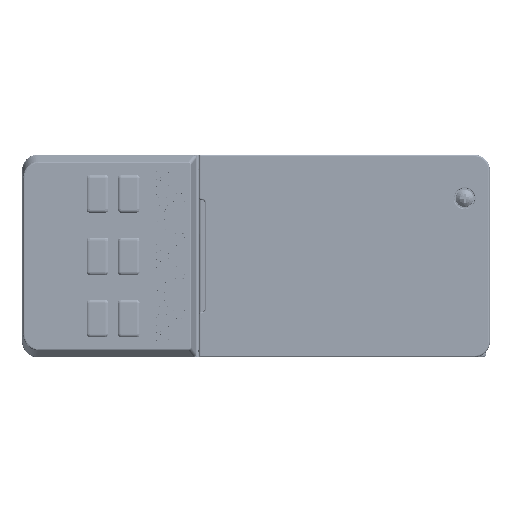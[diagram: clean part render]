
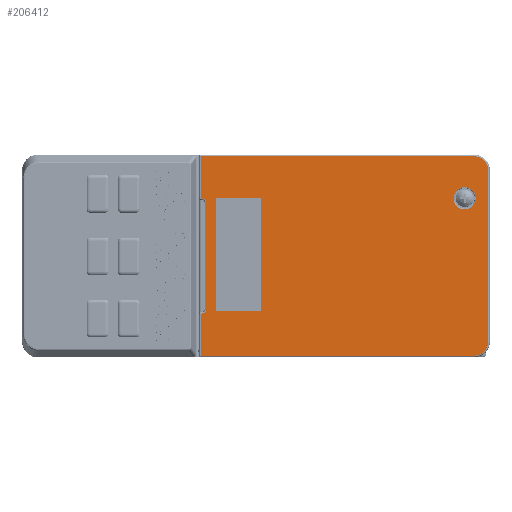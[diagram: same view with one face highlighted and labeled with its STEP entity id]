
A CAD part, front view. The second image highlights one B-rep face of the part: STEP entity #206412.
In plain terms, the highlighted planar face has unit normal (0, -1, 0).
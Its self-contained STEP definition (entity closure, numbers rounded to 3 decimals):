
#11939=CIRCLE('',#222345,4.449);
#11940=CIRCLE('',#222346,4.449);
#11941=CIRCLE('',#222347,0.3);
#11942=CIRCLE('',#222348,1.3);
#11943=CIRCLE('',#222349,1.3);
#11944=CIRCLE('',#222350,0.3);
#11945=CIRCLE('',#222351,3.55);
#15428=FACE_BOUND('',#41229,.T.);
#29149=FACE_OUTER_BOUND('',#41228,.T.);
#41228=EDGE_LOOP('',(#180048,#180049,#180050,#180051,#180052,#180053,#180054,
#180055,#180056,#180057,#180058,#180059,#180060,#180061));
#41229=EDGE_LOOP('',(#180062));
#60125=LINE('',#452213,#80781);
#60126=LINE('',#452217,#80782);
#60127=LINE('',#452221,#80783);
#60128=LINE('',#452223,#80784);
#60129=LINE('',#452227,#80785);
#60130=LINE('',#452231,#80786);
#60131=LINE('',#452235,#80787);
#60132=LINE('',#452238,#80788);
#80781=VECTOR('',#267516,87.749);
#80782=VECTOR('',#267519,55.);
#80783=VECTOR('',#267522,87.749);
#80784=VECTOR('',#267523,13.194);
#80785=VECTOR('',#267526,0.233);
#80786=VECTOR('',#267529,34.291);
#80787=VECTOR('',#267532,0.233);
#80788=VECTOR('',#267535,13.194);
#100324=VERTEX_POINT('',#452211);
#100325=VERTEX_POINT('',#452212);
#100326=VERTEX_POINT('',#452214);
#100327=VERTEX_POINT('',#452216);
#100328=VERTEX_POINT('',#452218);
#100329=VERTEX_POINT('',#452220);
#100330=VERTEX_POINT('',#452222);
#100331=VERTEX_POINT('',#452224);
#100332=VERTEX_POINT('',#452226);
#100333=VERTEX_POINT('',#452228);
#100334=VERTEX_POINT('',#452230);
#100335=VERTEX_POINT('',#452232);
#100336=VERTEX_POINT('',#452234);
#100337=VERTEX_POINT('',#452236);
#100338=VERTEX_POINT('',#452239);
#127443=EDGE_CURVE('',#100324,#100325,#60125,.T.);
#127444=EDGE_CURVE('',#100326,#100325,#11939,.T.);
#127445=EDGE_CURVE('',#100326,#100327,#60126,.T.);
#127446=EDGE_CURVE('',#100328,#100327,#11940,.T.);
#127447=EDGE_CURVE('',#100328,#100329,#60127,.T.);
#127448=EDGE_CURVE('',#100329,#100330,#60128,.T.);
#127449=EDGE_CURVE('',#100331,#100330,#11941,.T.);
#127450=EDGE_CURVE('',#100331,#100332,#60129,.T.);
#127451=EDGE_CURVE('',#100333,#100332,#11942,.T.);
#127452=EDGE_CURVE('',#100333,#100334,#60130,.T.);
#127453=EDGE_CURVE('',#100335,#100334,#11943,.T.);
#127454=EDGE_CURVE('',#100335,#100336,#60131,.T.);
#127455=EDGE_CURVE('',#100337,#100336,#11944,.T.);
#127456=EDGE_CURVE('',#100337,#100324,#60132,.T.);
#127457=EDGE_CURVE('',#100338,#100338,#11945,.T.);
#180048=ORIENTED_EDGE('',*,*,#127443,.T.);
#180049=ORIENTED_EDGE('',*,*,#127444,.F.);
#180050=ORIENTED_EDGE('',*,*,#127445,.T.);
#180051=ORIENTED_EDGE('',*,*,#127446,.F.);
#180052=ORIENTED_EDGE('',*,*,#127447,.T.);
#180053=ORIENTED_EDGE('',*,*,#127448,.T.);
#180054=ORIENTED_EDGE('',*,*,#127449,.F.);
#180055=ORIENTED_EDGE('',*,*,#127450,.T.);
#180056=ORIENTED_EDGE('',*,*,#127451,.F.);
#180057=ORIENTED_EDGE('',*,*,#127452,.T.);
#180058=ORIENTED_EDGE('',*,*,#127453,.F.);
#180059=ORIENTED_EDGE('',*,*,#127454,.T.);
#180060=ORIENTED_EDGE('',*,*,#127455,.F.);
#180061=ORIENTED_EDGE('',*,*,#127456,.T.);
#180062=ORIENTED_EDGE('',*,*,#127457,.F.);
#196241=PLANE('',#222344);
#206412=ADVANCED_FACE('',(#29149,#15428),#196241,.T.);
#222344=AXIS2_PLACEMENT_3D('',#452210,#267514,#267515);
#222345=AXIS2_PLACEMENT_3D('',#452215,#267517,#267518);
#222346=AXIS2_PLACEMENT_3D('',#452219,#267520,#267521);
#222347=AXIS2_PLACEMENT_3D('',#452225,#267524,#267525);
#222348=AXIS2_PLACEMENT_3D('',#452229,#267527,#267528);
#222349=AXIS2_PLACEMENT_3D('',#452233,#267530,#267531);
#222350=AXIS2_PLACEMENT_3D('',#452237,#267533,#267534);
#222351=AXIS2_PLACEMENT_3D('',#452240,#267536,#267537);
#267514=DIRECTION('center_axis',(0.,-1.,0.));
#267515=DIRECTION('ref_axis',(1.,0.,0.));
#267516=DIRECTION('',(1.,0.,0.));
#267517=DIRECTION('center_axis',(0.,1.,0.));
#267518=DIRECTION('ref_axis',(1.,0.,0.));
#267519=DIRECTION('',(0.,0.,1.));
#267520=DIRECTION('center_axis',(0.,1.,0.));
#267521=DIRECTION('ref_axis',(0.,0.,1.));
#267522=DIRECTION('',(-1.,0.,0.));
#267523=DIRECTION('',(0.,0.,-1.));
#267524=DIRECTION('center_axis',(0.,1.,
0.));
#267525=DIRECTION('ref_axis',(-0.051,0.,-0.999));
#267526=DIRECTION('',(0.999,0.,-0.044));
#267527=DIRECTION('center_axis',(0.,-1.,0.));
#267528=DIRECTION('ref_axis',(1.,0.,0.));
#267529=DIRECTION('',(0.,0.,-1.));
#267530=DIRECTION('center_axis',(0.,-1.,0.));
#267531=DIRECTION('ref_axis',(0.052,0.,-0.999));
#267532=DIRECTION('',(-0.999,0.,-0.044));
#267533=DIRECTION('center_axis',(0.,1.,
0.));
#267534=DIRECTION('ref_axis',(-1.,0.,0.));
#267535=DIRECTION('',(0.,0.,-1.));
#267536=DIRECTION('center_axis',(0.,-1.,0.));
#267537=DIRECTION('ref_axis',(-1.,0.,0.));
#452210=CARTESIAN_POINT('Origin',(0.,-53.,0.));
#452211=CARTESIAN_POINT('',(-25.249,-53.,-45.449));
#452212=CARTESIAN_POINT('',(62.5,-53.,-45.449));
#452213=CARTESIAN_POINT('',(-25.249,-53.,-45.449));
#452214=CARTESIAN_POINT('',(66.949,-53.,-41.));
#452215=CARTESIAN_POINT('Origin',(62.5,-53.,-41.));
#452216=CARTESIAN_POINT('',(66.949,-53.,14.));
#452217=CARTESIAN_POINT('',(66.949,-53.,-41.));
#452218=CARTESIAN_POINT('',(62.5,-53.,18.449));
#452219=CARTESIAN_POINT('Origin',(62.5,-53.,14.));
#452220=CARTESIAN_POINT('',(-25.249,-53.,18.449));
#452221=CARTESIAN_POINT('',(62.5,-53.,18.449));
#452222=CARTESIAN_POINT('',(-25.249,-53.,5.256));
#452223=CARTESIAN_POINT('',(-25.249,-53.,18.449));
#452224=CARTESIAN_POINT('',(-24.965,-53.,4.956));
#452225=CARTESIAN_POINT('Origin',(-24.949,-53.,5.256));
#452226=CARTESIAN_POINT('',(-24.732,-53.,4.944));
#452227=CARTESIAN_POINT('',(-24.965,-53.,4.955));
#452228=CARTESIAN_POINT('',(-23.5,-53.,3.646));
#452229=CARTESIAN_POINT('Origin',(-24.8,-53.,3.646));
#452230=CARTESIAN_POINT('',(-23.5,-53.,-30.646));
#452231=CARTESIAN_POINT('',(-23.5,-53.,3.646));
#452232=CARTESIAN_POINT('',(-24.732,-53.,-31.944));
#452233=CARTESIAN_POINT('Origin',(-24.8,-53.,-30.646));
#452234=CARTESIAN_POINT('',(-24.965,-53.,-31.956));
#452235=CARTESIAN_POINT('',(-24.732,-53.,-31.945));
#452236=CARTESIAN_POINT('',(-25.249,-53.,-32.256));
#452237=CARTESIAN_POINT('Origin',(-24.949,-53.,-32.256));
#452238=CARTESIAN_POINT('',(-25.249,-53.,-32.256));
#452239=CARTESIAN_POINT('',(55.863,-53.,4.702));
#452240=CARTESIAN_POINT('Origin',(59.4,-53.,5.));
